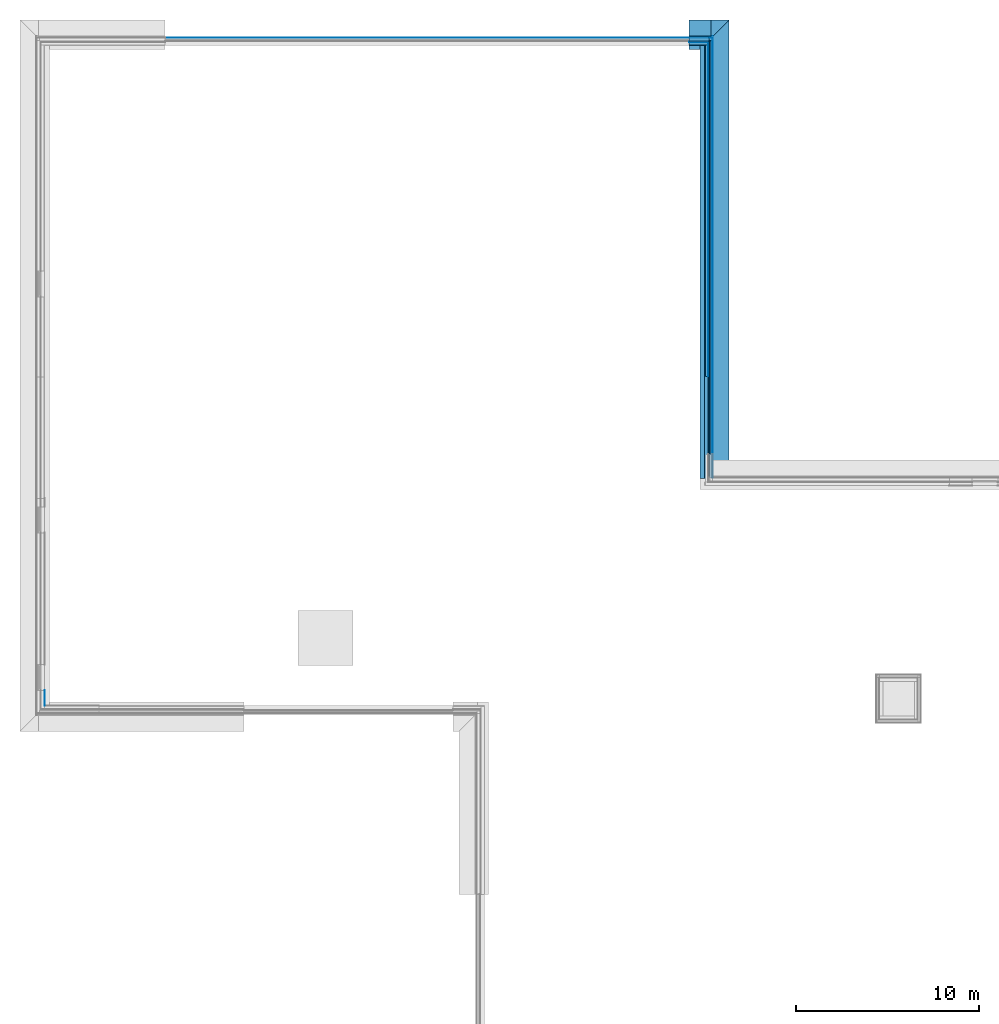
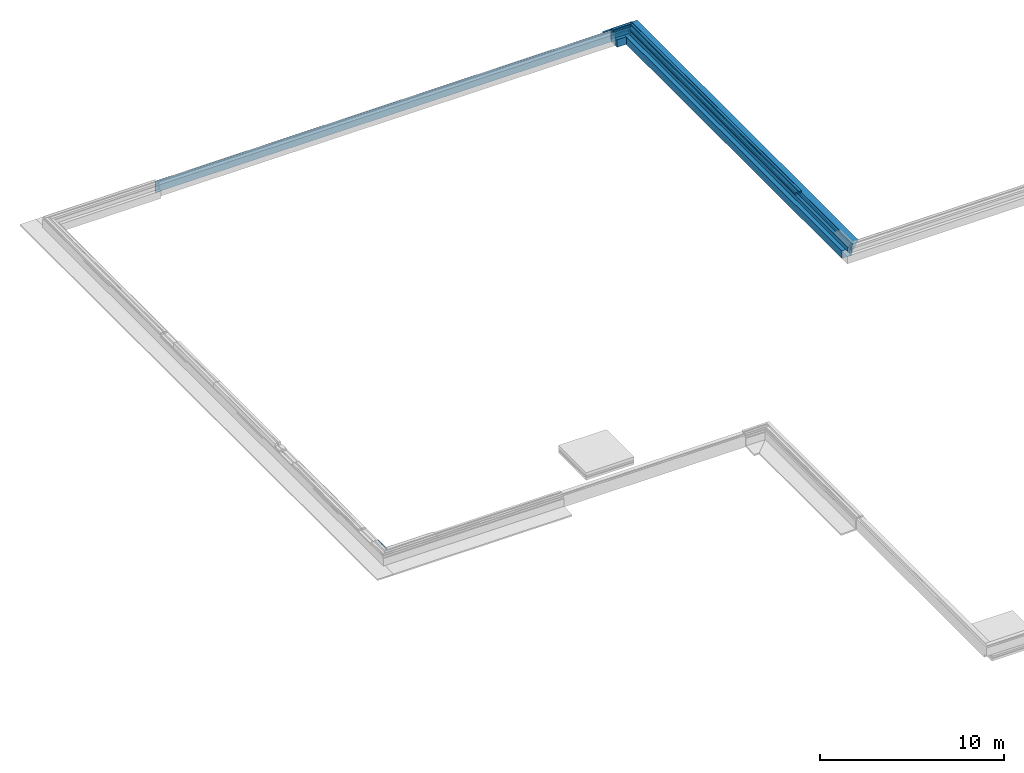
# One storey, part 13 of 17: 32 building element parts, 6 elements without a shape of their own.
"""IFC2X3 building model written with IfcOpenShell, lengths in millimetres."""

from ifc_helpers import new_model, entity, si_unit, converted_unit, derived_unit, money_unit, direction, frame, origin_with_axes, place, context, subcontext, project, spatial, faceted_brep, material, type_object, element, aggregate, save


model = new_model("IFC2X3")

# Units and contexts
model_context = context("Model", 3, precision=0.01, world=origin_with_axes(), true_north=direction((0.0, 1.0)))
body_context = subcontext(model_context, "Body", "Model", "MODEL_VIEW")
ifc_project = project(units=[si_unit("LENGTHUNIT", "METRE", prefix="MILLI"), si_unit("AREAUNIT", "SQUARE_METRE"), si_unit("VOLUMEUNIT", "CUBIC_METRE"), converted_unit("PLANEANGLEUNIT", "DEGREE", entity("IfcPlaneAngleMeasure", 0.0174532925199), si_unit("PLANEANGLEUNIT", "RADIAN"), dimensions=[0, 0, 0, 0, 0, 0, 0]), money_unit("EUR"), converted_unit("TIMEUNIT", "Year", entity("IfcTimeMeasure", 31556926.0), si_unit("TIMEUNIT", "SECOND"), dimensions=[0, 0, 1, 0, 0, 0, 0]), si_unit("MASSUNIT", "GRAM", prefix="KILO"), si_unit("THERMODYNAMICTEMPERATUREUNIT", "DEGREE_CELSIUS"), si_unit("LUMINOUSINTENSITYUNIT", "LUMEN"), si_unit("ENERGYUNIT", "JOULE", prefix="MEGA"), derived_unit("THERMALCONDUCTANCEUNIT", [(si_unit("POWERUNIT", "WATT"), 1), (si_unit("LENGTHUNIT", "METRE"), -1), (si_unit("THERMODYNAMICTEMPERATUREUNIT", "KELVIN"), -1)]), derived_unit("SPECIFICHEATCAPACITYUNIT", [(si_unit("ENERGYUNIT", "JOULE"), 1), (si_unit("MASSUNIT", "GRAM", prefix="KILO"), -1), (si_unit("THERMODYNAMICTEMPERATUREUNIT", "KELVIN"), -1)]), derived_unit("MASSDENSITYUNIT", [(si_unit("MASSUNIT", "GRAM", prefix="KILO"), 1), (si_unit("VOLUMEUNIT", "CUBIC_METRE"), -1)])], contexts=[model_context])

# Site, building, storey
site_placement = place(None, origin_with_axes())
site = spatial("IfcSite", under=ifc_project, at=site_placement, Name="Kolde pst 67a", CompositionType="ELEMENT")
building_placement = place(site_placement, origin_with_axes())
building = spatial("IfcBuilding", under=site, at=building_placement, Name="Riigigümnaasium", CompositionType="ELEMENT")
storey_placement = place(building_placement, frame((0.0, 0.0, -1500.0), z_axis=(0.0, 0.0, 1.0), x_axis=(1.0, 0.0, 0.0)))
storey = spatial("IfcBuildingStorey", under=building, at=storey_placement, Name="Vundament", CompositionType="ELEMENT", Elevation=-1500.0)

# Wall, building element parts
wall_type_1 = type_object("IfcWallType", Name="Lintvundament C plokk 1602 x 765", PredefinedType="NOTDEFINED")
wall_1_placement = place(storey_placement, frame((36439.99923, 60440.0001843, 1479.99999851), z_axis=(0.0, 0.0, 1.0), x_axis=(0.0, 1.0, 0.0)))
wall_1 = element("IfcWall", 1, at=wall_1_placement, inside=storey, type_object=wall_type_1, Name="Vundament")
ifc_material_1 = material(Name="_KANDETARIND - monoliitne raudbetoon vastavalt EK osale")
building_element_part_1_placement = place(wall_1_placement, origin_with_axes())
building_element_part_1 = element("IfcBuildingElementPart", 2, at=building_element_part_1_placement, material=ifc_material_1, Name="_KANDETARIND - monoliitne raudbetoon vastavalt EK osale", context=body_context, shape_type="Brep", body=[
    faceted_brep([(6484.99154481, 200.0, 2.38226693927e-06), (6484.99154481, 0.0, 2.38226693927e-06), (23999.9997743, 0.0, 8.81641959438e-06), (23999.9997743, 200.0, 8.81641959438e-06), (6484.99154481, 0.0, -1.99999850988), (6484.99154481, 200.0, -1.99999850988), (1477.8830646, 0.0, -1.99999850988), (1477.8830646, 0.0, 5.42901557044e-07), (0.0, 0.0, 0.0), (0.0, 0.0, -250.0), (200.057444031, 0.0, -250.0), (23999.9997743, 0.0, -250.000008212), (23999.9997743, 200.0, -250.000008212), (200.057444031, 200.0, -250.0), (0.0, 200.0, -250.0), (0.0, 200.0, 0.0), (1477.8830646, 200.0, 5.42901557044e-07), (1477.8830646, 200.0, -1.99999850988), (24200.0572118, 200.0, -250.000008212), (200.057444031, -140.057444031, -250.0), (24200.0572118, -140.057444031, -250.000008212), (24200.0572118, 459.942555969, -250.000008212), (200.057444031, 459.942555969, -250.0), (200.057444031, 459.942555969, -750.0), (200.057444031, -140.057444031, -750.0), (24200.0572118, -140.057444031, -750.000008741), (24200.0572118, 459.942555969, -750.000008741)], [[[0, 1, 2, 3]], [[4, 1, 0, 5]], [[6, 7, 8, 9, 10, 11, 2, 1, 4]], [[12, 3, 2, 11]], [[5, 0, 3, 12, 13, 14, 15, 16, 17]], [[6, 4, 5, 17]], [[16, 7, 6, 17]], [[7, 16, 15, 8]], [[9, 8, 15, 14]], [[10, 9, 14, 13]], [[18, 12, 11, 10, 19, 20]], [[13, 12, 18, 21, 22]], [[23, 24, 19, 10, 13, 22]], [[25, 20, 19, 24]], [[25, 26, 21, 18, 20]], [[22, 21, 26, 23]], [[23, 26, 25, 24]]]),
])
ifc_material_2 = material(Name="_SOOJUSTUS - ekstrudeeritud polüstüreenist plaadid XPS 250, survetugevus min 250kPa, soojuserijuhtivus λD<0,036 W/(mK), veeimavus alla 0,2%, näiteks XPS 250 foam SL või samaväärne")
building_element_part_2_placement = place(wall_1_placement, origin_with_axes())
building_element_part_2 = element("IfcBuildingElementPart", 3, at=building_element_part_2_placement, material=ifc_material_2, Name="_SOOJUSTUS - ekstrudeeritud polüstüreenist plaadid XPS 250, survetugevus min 250kPa, soojuserijuhtivus λD<0,036 W/(mK), veeimavus alla 0,2%, näiteks XPS 250 foam SL või samaväärne", context=body_context, shape_type="Brep", body=[
    faceted_brep([(73.0000017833, -3.00000241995, -146.99999851), (73.0000017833, -3.00000241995, -3.76120343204e-06), (24072.9997756, -3.00000241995, -2.23078100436e-06), (24072.9997756, -3.00000241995, -146.99999851), (73.0000017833, -73.00000242, -146.99999851), (73.0000017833, -73.00000242, -3.76120343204e-06), (24072.9997756, -73.00000242, -2.23078100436e-06), (24072.9997756, -73.00000242, -146.99999851)], [[[0, 1, 2, 3]], [[1, 0, 4, 5]], [[2, 1, 5, 6]], [[3, 2, 6, 7]], [[0, 3, 7, 4]], [[5, 4, 7, 6]]]),
])
ifc_material_3 = material(Name="_SOOJUSTUS - vahtpolüstüreenplaadid EPS 120 Perimeeter, survetugevus min 120kPa, veeimavus <2%, soojuserijuhtivus λD<0,036 W/(mK)")
building_element_part_3_placement = place(wall_1_placement, origin_with_axes())
building_element_part_3 = element("IfcBuildingElementPart", 4, at=building_element_part_3_placement, material=ifc_material_3, Name="_SOOJUSTUS - vahtpolüstüreenplaadid EPS 120 Perimeeter, survetugevus min 120kPa, veeimavus <2%, soojuserijuhtivus λD<0,036 W/(mK)", context=body_context, shape_type="Brep", body=[
    faceted_brep([(24303.0572148, -243.057440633, -247.000001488), (24303.0572148, -243.057440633, -146.999992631), (303.057446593, -243.057440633, -146.99999851), (303.057446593, -243.057440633, -247.000001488), (24303.0572148, -3.00000241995, -146.999992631), (24303.0572148, -3.00000241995, -247.000001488), (303.057446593, -3.00000241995, -146.99999851), (303.057446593, -3.00000241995, -247.000001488)], [[[0, 1, 2, 3]], [[4, 1, 0, 5]], [[1, 4, 6, 2]], [[7, 3, 2, 6]], [[5, 0, 3, 7]], [[4, 5, 7, 6]]]),
])
ifc_material_4 = material(Name="_HÜDROISOLATSIOON - Bituumenvõõp COMBIFLEX-EL vastavalt TL2 nõuetele")
building_element_part_4_placement = place(wall_1_placement, origin_with_axes())
building_element_part_4 = element("IfcBuildingElementPart", 5, at=building_element_part_4_placement, material=ifc_material_4, Name="_HÜDROISOLATSIOON - Bituumenvõõp COMBIFLEX-EL vastavalt TL2 nõuetele", context=body_context, shape_type="Brep", body=[
    faceted_brep([(24002.9997767, -3.00000118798, -247.000001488), (24002.9997767, -3.00000118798, -3.7612034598e-06), (2.99999783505, -3.00000118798, -2.35946218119e-06), (2.99999653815, -3.00000118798, -246.999998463), (203.057435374, -3.00000118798, -246.999999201), (24002.9997767, 0.0, -247.000001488), (24002.9997767, 0.0, -3.7612034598e-06), (2.99999783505, 0.0, -2.35946218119e-06), (2.99999653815, 0.0, -246.999998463), (203.057435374, 0.0, -246.999999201), (24203.0572183, 0.0, -247.000001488), (203.057435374, -143.057433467, -246.999999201), (24203.0572183, -143.057433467, -246.99999851), (24203.0572183, 0.0, -250.00000709), (203.057435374, 0.0, -250.000000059), (203.057435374, -140.057449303, -250.000000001), (203.057435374, -140.057449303, -729.999997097), (203.057435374, -143.057433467, -729.999997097), (24203.0572183, -143.057433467, -729.999997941), (24203.0572087, -143.057433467, -750.000015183), (24203.0572087, -140.057449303, -750.000015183), (24203.0572183, -140.057449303, -250.00000709), (203.057435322, -140.057449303, -750.000008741), (203.057435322, -143.057433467, -750.000008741)], [[[0, 1, 2, 3, 4]], [[5, 6, 1, 0]], [[2, 1, 6, 7]], [[2, 7, 8, 3]], [[8, 9, 4, 3]], [[10, 5, 0, 4, 11, 12]], [[7, 6, 5, 10, 13, 14, 9, 8]], [[9, 14, 15, 16, 17, 11, 4]], [[18, 12, 11, 17]], [[18, 19, 20, 21, 13, 10, 12]], [[14, 13, 21, 15]], [[16, 15, 21, 20, 22]], [[16, 22, 23, 17]], [[23, 19, 18, 17]], [[22, 20, 19, 23]]]),
])
building_element_part_5_placement = place(wall_1_placement, origin_with_axes())
building_element_part_5 = element("IfcBuildingElementPart", 6, at=building_element_part_5_placement, material=ifc_material_3, Name="_SOOJUSTUS - vahtpolüstüreenplaadid EPS 120 Perimeeter, survetugevus min 120kPa, veeimavus <2%, soojuserijuhtivus λD<0,036 W/(mK)", context=body_context, shape_type="Brep", body=[
    faceted_brep([(223.000000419, -73.0000021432, -146.999998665), (223.000000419, -73.0000021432, -2.23078099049e-06), (24222.9997758, -73.0000021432, -1.37334278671e-06), (24222.9997758, -73.0000021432, -146.999998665), (223.000000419, -223.000003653, -146.999998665), (223.000000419, -223.000003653, -2.23078099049e-06), (24222.9997758, -223.000003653, -1.37334278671e-06), (24222.9997758, -223.000003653, -146.999998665)], [[[0, 1, 2, 3]], [[1, 0, 4, 5]], [[2, 1, 5, 6]], [[3, 2, 6, 7]], [[0, 3, 7, 4]], [[5, 4, 7, 6]]]),
])
ifc_material_5 = material(Name="_TUULETÕKE - sokli krohv, silikoonvaikkrohv Weber.pas 481 AquaBalance 1mm \"scratch\" viimistlus, toon helehall CL444 (S 3502-Y) * 35, SILS süsteem, või samaväärne")
building_element_part_6_placement = place(wall_1_placement, origin_with_axes())
building_element_part_6 = element("IfcBuildingElementPart", 7, at=building_element_part_6_placement, material=ifc_material_5, Name="_TUULETÕKE - sokli krohv, silikoonvaikkrohv Weber.pas 481 AquaBalance 1mm \"scratch\" viimistlus, toon helehall CL444 (S 3502-Y) * 35, SILS süsteem, või samaväärne", context=body_context, shape_type="Brep", body=[
    faceted_brep([(24232.9997768, -223.000003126, -146.999999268), (24232.9997768, -233.000000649, -146.999999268), (233.000001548, -233.000000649, -146.999999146), (233.000001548, -223.000003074, -146.999999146), (24232.999787, -223.000003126, 3.32716632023e-07), (24232.999787, -233.000000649, 3.32716632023e-07), (24232.999787, -232.999999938, -29.9999875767), (233.000002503, -232.999999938, -30.0000036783), (233.000002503, -223.000003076, -30.0000036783), (233.000001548, -223.000003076, -1.37334278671e-06), (233.000001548, -233.000000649, -1.37334278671e-06)], [[[0, 1, 2, 3]], [[0, 4, 5, 6, 1]], [[7, 2, 1, 6]], [[2, 7, 8, 3]], [[8, 9, 4, 0, 3]], [[5, 4, 9, 10]], [[10, 7, 6, 5]], [[9, 8, 7, 10]]]),
])
ifc_material_6 = material(Name="_HÜDROISOLATSIOON - tsemendil baseeruv ühekomponentne hüdroisolatsioon hüdroisoleerimiseks sokli krohvi pealt, ülevärvitud silikoonvaikvärviga sokli krohvi tooni, Weber.tec 824 ja Weber.ton 411 AquaBalance toon CL444 (S 3502-Y) * 35 või samaväärne")
building_element_part_7_placement = place(wall_1_placement, origin_with_axes())
building_element_part_7 = element("IfcBuildingElementPart", 8, at=building_element_part_7_placement, material=ifc_material_6, Name="_HÜDROISOLATSIOON - tsemendil baseeruv ühekomponentne hüdroisolatsioon hüdroisoleerimiseks sokli krohvi pealt, ülevärvitud silikoonvaikvärviga sokli krohvi tooni, Weber.tec 824 ja Weber.ton 411 AquaBalance toon CL444 (S 3502-Y) * 35 või samaväärne", context=body_context, shape_type="Brep", body=[
    faceted_brep([(234.99999634, -232.999999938, -146.999993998), (234.99999634, -232.999999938, -30.0000012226), (24234.9997677, -232.999999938, -29.9999946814), (24234.9997677, -232.999999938, -146.999992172), (234.99999634, -235.000002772, -146.999993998), (234.99999634, -235.000002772, -29.9999967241), (24234.9997677, -235.000002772, -29.9999946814), (24234.9997677, -235.000002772, -146.999992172)], [[[0, 1, 2, 3]], [[1, 0, 4, 5]], [[2, 1, 5, 6]], [[6, 7, 3, 2]], [[0, 3, 7, 4]], [[5, 4, 7, 6]]]),
])
building_element_part_8_placement = place(wall_1_placement, origin_with_axes())
building_element_part_8 = element("IfcBuildingElementPart", 9, at=building_element_part_8_placement, material=ifc_material_3, Name="_SOOJUSTUS - vahtpolüstüreenplaadid EPS 120 Perimeeter, survetugevus min 120kPa, veeimavus <2%, soojuserijuhtivus λD<0,036 W/(mK)", context=body_context, shape_type="Brep", body=[
    faceted_brep([(24303.0572145, -243.057443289, -629.93015656), (24303.0572145, -243.057443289, -247.000001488), (303.057446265, -243.057443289, -246.99999851), (303.057446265, -243.057443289, -633.422240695), (24303.0573383, -243.057443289, -633.422240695), (24303.0572145, -143.057441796, -247.000001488), (24303.0572145, -143.057441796, -629.93015656), (303.057446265, -143.057441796, -246.99999851), (303.057446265, -143.057441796, -629.93015656)], [[[0, 1, 2, 3, 4]], [[5, 1, 0, 6]], [[1, 5, 7, 2]], [[2, 7, 8, 3]], [[6, 4, 3, 8]], [[6, 0, 4]], [[5, 6, 8, 7]]]),
])
ifc_material_7 = material(Name="_ALUSKATE - drenaaži- ja kaitsematt geotekstiiliga soojustuse kaitseks, Interplast Iso-Drain 8 Geo või samaväärne")
building_element_part_9_placement = place(wall_1_placement, origin_with_axes())
building_element_part_9 = element("IfcBuildingElementPart", 10, at=building_element_part_9_placement, material=ifc_material_7, Name="_ALUSKATE - drenaaži- ja kaitsematt geotekstiiliga soojustuse kaitseks, Interplast Iso-Drain 8 Geo või samaväärne", context=body_context, shape_type="Brep", body=[
    faceted_brep([(313.057436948, -235.000000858, -146.999992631), (313.057437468, -235.000000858, -137.030569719), (245.000004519, -235.000000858, -137.030569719), (245.000004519, -235.000000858, -29.9999946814), (24244.9997687, -235.000000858, -29.9999875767), (24244.9997687, -235.000000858, -137.03058496), (24313.0572264, -235.000000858, -137.03058496), (24313.0572264, -235.000000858, -146.999992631), (313.057436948, -243.057438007, -146.999998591), (313.057436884, -243.057526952, -633.422240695), (313.057397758, -253.057449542, -633.771445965), (313.057437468, -253.057449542, -137.030569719), (245.000004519, -253.057449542, -137.030569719), (245.000004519, -253.057449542, -136.999995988), (245.000004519, -245.000012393, -136.999995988), (245.000004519, -245.000012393, -29.9999946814), (24244.9997687, -245.000012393, -29.9999875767), (24244.9997687, -245.000012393, -136.999995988), (24244.9997687, -253.057449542, -136.999995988), (24244.9997687, -253.057449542, -137.03058496), (24313.0572264, -253.057449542, -137.03058496), (24313.0572264, -253.057449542, -633.771442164), (24313.0572264, -243.057438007, -633.422236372), (24313.0572264, -243.057438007, -146.999992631)], [[[0, 1, 2, 3, 4, 5, 6, 7]], [[1, 0, 8, 9, 10, 11]], [[2, 1, 11, 12]], [[3, 2, 12, 13, 14, 15]], [[4, 3, 15, 16]], [[5, 4, 16, 17, 18, 19]], [[6, 5, 19, 20]], [[7, 6, 20, 21, 22, 23]], [[0, 7, 23, 8]], [[8, 23, 22, 9]], [[9, 22, 21, 10]], [[11, 10, 21, 20, 19, 18, 13, 12]], [[14, 13, 18, 17]], [[15, 14, 17, 16]]]),
])
building_element_part_10_placement = place(wall_1_placement, origin_with_axes())
building_element_part_10 = element("IfcBuildingElementPart", 11, at=building_element_part_10_placement, material=ifc_material_3, Name="_SOOJUSTUS - vahtpolüstüreenplaadid EPS 120 Perimeeter, survetugevus min 120kPa, veeimavus <2%, soojuserijuhtivus λD<0,036 W/(mK)", context=body_context, shape_type="Brep", body=[
    faceted_brep([(24313.0572112, -143.057441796, -633.771447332), (24203.0572183, -143.057441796, -629.930162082), (24313.0572112, -253.057449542, -633.771447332), (25202.4656514, -1142.46587935, -664.830280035), (25202.4656514, -143.057441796, -664.830280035), (25200.1898708, -143.057441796, -729.999997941), (1200.19010466, -143.057441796, -729.999995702), (1202.46588158, -143.057441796, -664.830269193), (313.057436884, -143.057441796, -633.771447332), (203.057444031, -143.057441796, -629.93015656), (313.057436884, -253.057449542, -633.771447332), (1202.46588158, -1142.46587935, -664.830269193), (25198.9756955, -1138.97592914, -764.769370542), (1198.97593138, -1138.97592914, -764.769370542)], [[[0, 1, 2, 3, 4]], [[1, 0, 4, 5, 6, 7, 8, 9]], [[1, 9, 10, 2]], [[2, 10, 11, 3]], [[12, 5, 4, 3]], [[6, 5, 12, 13]], [[13, 11, 7, 6]], [[7, 11, 10, 8]], [[9, 8, 10]], [[3, 11, 13, 12]]]),
])
aggregate(wall_1, [building_element_part_1, building_element_part_2, building_element_part_3, building_element_part_4, building_element_part_5, building_element_part_6, building_element_part_7, building_element_part_8, building_element_part_9, building_element_part_10])

wall_type_2 = type_object("IfcWallType", Name="VS-CLT-16/3_sokkel võimla 393", PredefinedType="NOTDEFINED")
wall_2_placement = place(storey_placement, frame((36439.99923, 84439.9999608, 1480.0), z_axis=(0.0, 0.0, 1.0), x_axis=(-1.0, 0.0, 0.0)))
wall_2 = element("IfcWall", 12, at=wall_2_placement, inside=storey, type_object=wall_type_2, Name="Sokkel")
ifc_material_8 = material(Name="_KANDETARIND - CLT ristkihtliimpuit vastavalt EK osale, CLT paigaldusvuugid teibitakse ROTHOBLAAS teibiga")
building_element_part_11_placement = place(wall_2_placement, origin_with_axes())
building_element_part_11 = element("IfcBuildingElementPart", 13, at=building_element_part_11_placement, material=ifc_material_8, Name="_KANDETARIND - CLT ristkihtliimpuit vastavalt EK osale, CLT paigaldusvuugid teibitakse ROTHOBLAAS teibiga", context=body_context, shape_type="Brep", body=[
    faceted_brep([(1038.42575115, 160.0, 0.0), (1038.42575115, 0.0, 0.0), (0.0, 0.0, 0.0), (0.0, 160.0, 0.0), (1038.42575115, 160.0, 120.0), (1038.42575115, 0.0, 120.0), (0.0, 0.0, 120.0), (0.0, 160.0, 120.0)], [[[0, 1, 2, 3]], [[0, 4, 5, 1]], [[1, 5, 6, 2]], [[3, 2, 6, 7]], [[4, 0, 3, 7]], [[5, 4, 7, 6]]]),
])
ifc_material_9 = material(Name="_HÜDROISOLATSIOON - 3x SBS rullmaterjal vastavalt TL2 nõuetele, nakke tugevduseks betoonpind eelnevalt katta hüdroisolatsiooni bituumenvõõbaga")
building_element_part_12_placement = place(wall_2_placement, origin_with_axes())
building_element_part_12 = element("IfcBuildingElementPart", 14, at=building_element_part_12_placement, material=ifc_material_9, Name="_HÜDROISOLATSIOON - 3x SBS rullmaterjal vastavalt TL2 nõuetele, nakke tugevduseks betoonpind eelnevalt katta hüdroisolatsiooni bituumenvõõbaga", context=body_context, shape_type="Brep", body=[
    faceted_brep([(1038.42575115, 0.0, 0.0), (1038.42575115, -3.0, 0.0), (-3.0, -3.0, 0.0), (-3.0, 0.0, 0.0), (1038.42575115, 0.0, 120.0), (1038.42575115, -3.0, 120.0), (-3.0, -3.0, 120.0), (-3.0, 0.0, 120.0)], [[[0, 1, 2, 3]], [[0, 4, 5, 1]], [[1, 5, 6, 2]], [[3, 2, 6, 7]], [[4, 0, 3, 7]], [[5, 4, 7, 6]]]),
])
ifc_material_10 = material(Name="_SOOJUSTUS - ekstrudeeritud polüstüreenist plaadid XPS 250, soojuserijuhtivus lambdaD=0,035 W/mK, veeimavus alla 2%, näiteks Styrofoam 250 SL-A-N  või samaväärne, plaatide vuugid omavahel nihutada")
building_element_part_13_placement = place(wall_2_placement, origin_with_axes())
building_element_part_13 = element("IfcBuildingElementPart", 15, at=building_element_part_13_placement, material=ifc_material_10, Name="_SOOJUSTUS - ekstrudeeritud polüstüreenist plaadid XPS 250, soojuserijuhtivus lambdaD=0,035 W/mK, veeimavus alla 2%, näiteks Styrofoam 250 SL-A-N  või samaväärne, plaatide vuugid omavahel nihutada", context=body_context, shape_type="Brep", body=[
    faceted_brep([(1038.42575115, -3.0, 0.0), (1038.42575115, -73.0, 0.0), (-73.0, -73.0, 0.0), (-73.0, -3.0, 0.0), (1038.42575115, -3.0, 120.0), (1038.42575115, -73.0, 120.0), (-73.0, -73.0, 120.0), (-73.0, -3.0, 120.0)], [[[0, 1, 2, 3]], [[0, 4, 5, 1]], [[1, 5, 6, 2]], [[3, 2, 6, 7]], [[4, 0, 3, 7]], [[5, 4, 7, 6]]]),
])
building_element_part_14_placement = place(wall_2_placement, origin_with_axes())
building_element_part_14 = element("IfcBuildingElementPart", 16, at=building_element_part_14_placement, material=ifc_material_3, Name="_SOOJUSTUS - vahtpolüstüreenplaadid EPS 120 Perimeeter, survetugevus min 120kPa, veeimavus <2%, soojuserijuhtivus λD<0,036 W/(mK)", context=body_context, shape_type="Brep", body=[
    faceted_brep([(1038.42575115, -73.0, 0.0), (1038.42575115, -223.0, 0.0), (-223.0, -223.0, 0.0), (-223.0, -73.0, 0.0), (1038.42575115, -73.0, 120.0), (1038.42575115, -223.0, 120.0), (-223.0, -223.0, 120.0), (-223.0, -73.0, 120.0)], [[[0, 1, 2, 3]], [[0, 4, 5, 1]], [[1, 5, 6, 2]], [[3, 2, 6, 7]], [[4, 0, 3, 7]], [[5, 4, 7, 6]]]),
])
building_element_part_15_placement = place(wall_2_placement, origin_with_axes())
building_element_part_15 = element("IfcBuildingElementPart", 17, at=building_element_part_15_placement, material=ifc_material_5, Name="_TUULETÕKE - sokli krohv, silikoonvaikkrohv Weber.pas 481 AquaBalance 1mm \"scratch\" viimistlus, toon helehall CL444 (S 3502-Y) * 35, SILS süsteem, või samaväärne", context=body_context, shape_type="Brep", body=[
    faceted_brep([(1038.42575115, -223.0, 0.0), (1038.42575115, -233.0, 0.0), (-233.0, -233.0, 0.0), (-233.0, -223.0, 0.0), (1038.42575115, -223.0, 120.0), (1038.42575115, -233.0, 120.0), (-233.0, -233.0, 120.0), (-233.0, -223.0, 120.0)], [[[0, 1, 2, 3]], [[0, 4, 5, 1]], [[1, 5, 6, 2]], [[3, 2, 6, 7]], [[4, 0, 3, 7]], [[5, 4, 7, 6]]]),
])
aggregate(wall_2, [building_element_part_11, building_element_part_12, building_element_part_13, building_element_part_14, building_element_part_15])

wall_3_placement = place(storey_placement, frame((36439.99923, 66207.4801338, 1480.0), z_axis=(0.0, 0.0, 1.0), x_axis=(0.0, 1.0, 0.0)))
wall_3 = element("IfcWall", 18, at=wall_3_placement, inside=storey, type_object=wall_type_2, Name="Sokkel")
building_element_part_16_placement = place(wall_3_placement, origin_with_axes())
building_element_part_16 = element("IfcBuildingElementPart", 19, at=building_element_part_16_placement, material=ifc_material_8, Name="_KANDETARIND - CLT ristkihtliimpuit vastavalt EK osale, CLT paigaldusvuugid teibitakse ROTHOBLAAS teibiga", context=body_context, shape_type="Brep", body=[
    faceted_brep([(18072.519827, 0.0, 0.0), (0.0, 0.0, 0.0), (0.0, 160.0, 0.0), (18072.519827, 160.0, 0.0), (18072.519827, 0.0, 120.0), (0.0, 0.0, 120.0), (0.0, 160.0, 120.0), (18072.519827, 160.0, 120.0)], [[[0, 1, 2, 3]], [[4, 5, 1, 0]], [[2, 1, 5, 6]], [[3, 2, 6, 7]], [[3, 7, 4, 0]], [[7, 6, 5, 4]]]),
])
building_element_part_17_placement = place(wall_3_placement, origin_with_axes())
building_element_part_17 = element("IfcBuildingElementPart", 20, at=building_element_part_17_placement, material=ifc_material_9, Name="_HÜDROISOLATSIOON - 3x SBS rullmaterjal vastavalt TL2 nõuetele, nakke tugevduseks betoonpind eelnevalt katta hüdroisolatsiooni bituumenvõõbaga", context=body_context, shape_type="Brep", body=[
    faceted_brep([(18232.519827, -3.0, 0.0), (0.0, -3.0, 0.0), (0.0, 0.0, 0.0), (18232.519827, 0.0, 0.0), (18232.519827, -3.0, 120.0), (0.0, -3.0, 120.0), (0.0, 0.0, 120.0), (18232.519827, 0.0, 120.0)], [[[0, 1, 2, 3]], [[4, 5, 1, 0]], [[2, 1, 5, 6]], [[3, 2, 6, 7]], [[3, 7, 4, 0]], [[7, 6, 5, 4]]]),
])
building_element_part_18_placement = place(wall_3_placement, origin_with_axes())
building_element_part_18 = element("IfcBuildingElementPart", 21, at=building_element_part_18_placement, material=ifc_material_10, Name="_SOOJUSTUS - ekstrudeeritud polüstüreenist plaadid XPS 250, soojuserijuhtivus lambdaD=0,035 W/mK, veeimavus alla 2%, näiteks Styrofoam 250 SL-A-N  või samaväärne, plaatide vuugid omavahel nihutada", context=body_context, shape_type="Brep", body=[
    faceted_brep([(18235.519827, -73.0, 0.0), (0.0, -73.0, 0.0), (0.0, -3.0, 0.0), (18235.519827, -3.0, 0.0), (18235.519827, -73.0, 120.0), (0.0, -73.0, 120.0), (0.0, -3.0, 120.0), (18235.519827, -3.0, 120.0)], [[[0, 1, 2, 3]], [[4, 5, 1, 0]], [[2, 1, 5, 6]], [[3, 2, 6, 7]], [[3, 7, 4, 0]], [[7, 6, 5, 4]]]),
])
building_element_part_19_placement = place(wall_3_placement, origin_with_axes())
building_element_part_19 = element("IfcBuildingElementPart", 22, at=building_element_part_19_placement, material=ifc_material_3, Name="_SOOJUSTUS - vahtpolüstüreenplaadid EPS 120 Perimeeter, survetugevus min 120kPa, veeimavus <2%, soojuserijuhtivus λD<0,036 W/(mK)", context=body_context, shape_type="Brep", body=[
    faceted_brep([(18305.519827, -223.0, 0.0), (0.0, -223.0, 0.0), (0.0, -73.0, 0.0), (18305.519827, -73.0, 0.0), (18305.519827, -223.0, 120.0), (0.0, -223.0, 120.0), (0.0, -73.0, 120.0), (18305.519827, -73.0, 120.0)], [[[0, 1, 2, 3]], [[4, 5, 1, 0]], [[2, 1, 5, 6]], [[3, 2, 6, 7]], [[3, 7, 4, 0]], [[7, 6, 5, 4]]]),
])
building_element_part_20_placement = place(wall_3_placement, origin_with_axes())
building_element_part_20 = element("IfcBuildingElementPart", 23, at=building_element_part_20_placement, material=ifc_material_5, Name="_TUULETÕKE - sokli krohv, silikoonvaikkrohv Weber.pas 481 AquaBalance 1mm \"scratch\" viimistlus, toon helehall CL444 (S 3502-Y) * 35, SILS süsteem, või samaväärne", context=body_context, shape_type="Brep", body=[
    faceted_brep([(18455.519827, -233.0, 0.0), (0.0, -233.0, 0.0), (0.0, -223.0, 0.0), (18455.519827, -223.0, 0.0), (18455.519827, -233.0, 120.0), (0.0, -233.0, 120.0), (0.0, -223.0, 120.0), (18455.519827, -223.0, 120.0)], [[[0, 1, 2, 3]], [[4, 5, 1, 0]], [[2, 1, 5, 6]], [[3, 2, 6, 7]], [[3, 7, 4, 0]], [[7, 6, 5, 4]]]),
])
aggregate(wall_3, [building_element_part_16, building_element_part_17, building_element_part_18, building_element_part_19, building_element_part_20])

# Wall, building element part
wall_type_3 = type_object("IfcWallType", Name="VS-RB-20/2_sokkel  443", PredefinedType="NOTDEFINED")
wall_4_placement = place(storey_placement, frame((40.0568180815, 49081.2912596, 1480.0), z_axis=(0.0, 0.0, 1.0), x_axis=(-4.41557497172e-07, -1.0, 0.0)))
wall_4 = element("IfcWall", 24, at=wall_4_placement, inside=storey, type_object=wall_type_3, Name="Sokkel")
ifc_material_11 = material(Name="_VIIMISTLUSKIHT - viimistlus vastavalt SA osale")
building_element_part_21_placement = place(wall_4_placement, origin_with_axes())
building_element_part_21 = element("IfcBuildingElementPart", 25, at=building_element_part_21_placement, material=ifc_material_11, Name="_VIIMISTLUSKIHT - viimistlus vastavalt SA osale", context=body_context, shape_type="Brep", body=[
    faceted_brep([(841.310340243, 200.0, 0.0), (0.0, 200.0, 0.0), (0.0, 210.0, 0.0), (841.310335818, 210.0, 0.0), (841.310340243, 200.0, 120.0), (0.0, 200.0, 120.0), (0.0, 210.0, 120.0), (841.310335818, 210.0, 120.0)], [[[0, 1, 2, 3]], [[4, 5, 1, 0]], [[2, 1, 5, 6]], [[3, 2, 6, 7]], [[3, 7, 4, 0]], [[7, 6, 5, 4]]]),
])
aggregate(wall_4, [building_element_part_21])

wall_type_4 = type_object("IfcWallType", Name="VS-RB-25/3_lintvundament klaasfassaad 433", PredefinedType="NOTDEFINED")
wall_5_placement = place(storey_placement, frame((35400.0003162, 84672.9999608, 729.99999851), z_axis=(0.0, 0.0, 1.0), x_axis=(-1.0, 0.0, 0.0)))
wall_5 = element("IfcWall", 26, at=wall_5_placement, inside=storey, type_object=wall_type_4, Name="Vundament")
building_element_part_22_placement = place(wall_5_placement, origin_with_axes())
building_element_part_22 = element("IfcBuildingElementPart", 27, at=building_element_part_22_placement, material=ifc_material_5, Name="_TUULETÕKE - sokli krohv, silikoonvaikkrohv Weber.pas 481 AquaBalance 1mm \"scratch\" viimistlus, toon helehall CL444 (S 3502-Y) * 35, SILS süsteem, või samaväärne", context=body_context, shape_type="Brep", body=[
    faceted_brep([(28584.4631948, 10.0, 0.0), (28584.4631948, 0.0, 0.0), (0.0, 0.0, 0.0), (0.0, 10.0, 0.0), (28584.4631948, 10.0, 770.00000149), (28584.4631948, 0.0, 770.00000149), (0.0, 0.0, 770.00000149), (0.0, 10.0, 770.00000149)], [[[0, 1, 2, 3]], [[0, 4, 5, 1]], [[1, 5, 6, 2]], [[3, 2, 6, 7]], [[4, 0, 3, 7]], [[5, 4, 7, 6]]]),
])
aggregate(wall_5, [building_element_part_22])

# Wall, building element parts
wall_type_5 = type_object("IfcWallType", Name="Lintvundament 1602 x 765", PredefinedType="NOTDEFINED")
wall_6_placement = place(storey_placement, frame((36439.99923, 84439.9999586, 1479.99999851), z_axis=(0.0, 0.0, 1.0), x_axis=(-1.0, 0.0, 0.0)))
wall_6 = element("IfcWall", 28, at=wall_6_placement, inside=storey, type_object=wall_type_5, Name="Vundament")
building_element_part_23_placement = place(wall_6_placement, origin_with_axes())
building_element_part_23 = element("IfcBuildingElementPart", 29, at=building_element_part_23_placement, material=ifc_material_1, Name="_KANDETARIND - monoliitne raudbetoon vastavalt EK osale", context=body_context, shape_type="Brep", body=[
    faceted_brep([(200.0, 200.0, 0.0), (200.0, 0.0, 0.0), (1039.9989138, 0.0, 0.0), (1039.9989138, 200.0, 0.0), (200.0, 200.0, -250.0), (200.0, 0.0, -250.0), (459.942555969, 0.0, -250.0), (1039.9989138, 0.0, -250.0), (1039.9989138, 399.942555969, -250.0), (1039.9989138, 200.0, -250.0), (1039.9989138, -200.057444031, -250.0), (1039.9989138, -200.057444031, -750.0), (1039.9989138, 399.942555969, -750.0), (459.942555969, 200.0, -250.0), (459.942555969, -200.057444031, -250.0), (459.942555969, 399.942555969, -250.0), (459.942555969, -200.057444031, -750.0), (459.942555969, 399.942555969, -750.0)], [[[0, 1, 2, 3]], [[1, 0, 4, 5]], [[1, 5, 6, 7, 2]], [[8, 9, 3, 2, 7, 10, 11, 12]], [[0, 3, 9, 13, 4]], [[6, 5, 4, 13]], [[6, 14, 10, 7]], [[15, 13, 9, 8]], [[14, 16, 11, 10]], [[16, 17, 12, 11]], [[15, 8, 12, 17]], [[13, 15, 17, 16, 14, 6]]]),
])
building_element_part_24_placement = place(wall_6_placement, origin_with_axes())
building_element_part_24 = element("IfcBuildingElementPart", 30, at=building_element_part_24_placement, material=ifc_material_2, Name="_SOOJUSTUS - ekstrudeeritud polüstüreenist plaadid XPS 250, survetugevus min 250kPa, soojuserijuhtivus λD<0,036 W/(mK), veeimavus alla 0,2%, näiteks XPS 250 foam SL või samaväärne", context=body_context, shape_type="Brep", body=[
    faceted_brep([(-3.00000241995, -3.00000241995, 0.0), (-3.00000241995, -73.0000017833, 0.0), (1039.9989138, -73.0000017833, -3.76120340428e-06), (1039.9989138, -3.00000241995, -3.7612034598e-06), (-3.00000241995, -3.00000241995, -146.99999851), (-3.00000241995, -73.0000017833, -146.99999851), (1039.9989138, -73.0000017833, -146.999999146), (1039.9989138, -3.00000241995, -146.999999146)], [[[0, 1, 2, 3]], [[1, 0, 4, 5]], [[1, 5, 6, 2]], [[2, 6, 7, 3]], [[0, 3, 7, 4]], [[4, 7, 6, 5]]]),
])
building_element_part_25_placement = place(wall_6_placement, origin_with_axes())
building_element_part_25 = element("IfcBuildingElementPart", 31, at=building_element_part_25_placement, material=ifc_material_3, Name="_SOOJUSTUS - vahtpolüstüreenplaadid EPS 120 Perimeeter, survetugevus min 120kPa, veeimavus <2%, soojuserijuhtivus λD<0,036 W/(mK)", context=body_context, shape_type="Brep", body=[
    faceted_brep([(-73.0000021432, -73.0000013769, 1.49012682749e-06), (-73.0000021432, -223.000000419, 1.49012682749e-06), (1039.9989138, -223.000000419, -2.23078100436e-06), (1039.9989138, -73.0000013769, -2.23078100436e-06), (-73.0000021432, -73.0000013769, -146.999998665), (-73.0000021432, -223.000000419, -146.999998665), (1039.9989138, -223.000000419, -146.999999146), (1039.9989138, -73.0000013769, -146.999999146)], [[[0, 1, 2, 3]], [[1, 0, 4, 5]], [[1, 5, 6, 2]], [[6, 7, 3, 2]], [[0, 3, 7, 4]], [[7, 6, 5, 4]]]),
])
building_element_part_26_placement = place(wall_6_placement, origin_with_axes())
building_element_part_26 = element("IfcBuildingElementPart", 32, at=building_element_part_26_placement, material=ifc_material_3, Name="_SOOJUSTUS - vahtpolüstüreenplaadid EPS 120 Perimeeter, survetugevus min 120kPa, veeimavus <2%, soojuserijuhtivus λD<0,036 W/(mK)", context=body_context, shape_type="Brep", body=[
    faceted_brep([(-3.00000241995, -3.00000241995, -146.999997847), (-3.00000241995, -303.057446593, -146.999997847), (1039.9989138, -303.057446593, -146.99999851), (1039.9989138, -3.00000241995, -146.99999851), (-3.00000241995, -303.057446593, -247.000000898), (-3.00000241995, -3.00000241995, -247.000000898), (1039.9989138, -303.057446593, -247.000001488), (1039.9989138, -3.00000241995, -247.000001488)], [[[0, 1, 2, 3]], [[4, 1, 0, 5]], [[1, 4, 6, 2]], [[6, 7, 3, 2]], [[5, 0, 3, 7]], [[4, 5, 7, 6]]]),
])
building_element_part_27_placement = place(wall_6_placement, origin_with_axes())
building_element_part_27 = element("IfcBuildingElementPart", 33, at=building_element_part_27_placement, material=ifc_material_4, Name="_HÜDROISOLATSIOON - Bituumenvõõp COMBIFLEX-EL vastavalt TL2 nõuetele", context=body_context, shape_type="Brep", body=[
    faceted_brep([(0.0, 0.0, 6.88264223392e-07), (0.0, -2.99999783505, 6.88264223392e-07), (1039.9989138, -2.99999783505, -2.35946218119e-06), (1039.9989138, 0.0, 8.81641959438e-06), (0.0, 0.0, -250.000006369), (0.0, -200.057437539, -250.000006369), (0.0, -203.057435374, -250.000006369), (0.0, -203.057435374, -247.000002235), (0.0, -2.99999783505, -247.000002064), (1039.9989138, -2.99999783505, -246.999999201), (1039.9989138, -203.057435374, -750.000008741), (1039.9989138, -200.057437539, -750.000008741), (1039.9989138, -200.057437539, -250.000008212), (1039.9989138, 0.0, -250.000008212), (1039.9989138, -203.057435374, -246.999999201), (1039.9989138, -203.057435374, -729.999997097), (-140.057448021, -200.057437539, -250.000006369), (-140.057448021, -203.057435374, -250.000006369), (-140.057449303, -203.057435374, -729.999995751), (-140.057449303, -203.057435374, -750.000006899), (-140.057449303, -200.057437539, -750.000006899)], [[[0, 1, 2, 3]], [[1, 0, 4, 5, 6, 7, 8]], [[1, 8, 9, 2]], [[10, 11, 12, 13, 3, 2, 9, 14, 15]], [[0, 3, 13, 4]], [[12, 5, 4, 13]], [[16, 17, 6, 5]], [[6, 17, 18, 15, 14, 7]], [[9, 8, 7, 14]], [[10, 19, 20, 11]], [[12, 11, 20, 16, 5]], [[15, 18, 19, 10]], [[20, 19, 18, 17, 16]]]),
])
building_element_part_28_placement = place(wall_6_placement, origin_with_axes())
building_element_part_28 = element("IfcBuildingElementPart", 34, at=building_element_part_28_placement, material=ifc_material_5, Name="_TUULETÕKE - sokli krohv, silikoonvaikkrohv Weber.pas 481 AquaBalance 1mm \"scratch\" viimistlus, toon helehall CL444 (S 3502-Y) * 35, SILS süsteem, või samaväärne", context=body_context, shape_type="Brep", body=[
    faceted_brep([(-223.000003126, -223.000001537, 1.74315643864e-06), (-223.000003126, -233.000001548, 1.74315643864e-06), (1039.9989138, -233.000001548, -1.37334277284e-06), (1039.9989138, -223.000001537, -1.37334277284e-06), (-223.000003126, -233.000002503, -30.0000036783), (-223.000003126, -223.000001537, -146.999999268), (-223.000003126, -233.000001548, -146.999999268), (1039.9989138, -233.000002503, -30.0000036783), (1039.9989138, -233.000001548, -146.999999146), (1039.9989138, -223.000001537, -146.999999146)], [[[0, 1, 2, 3]], [[4, 1, 0, 5, 6]], [[1, 4, 7, 2]], [[8, 9, 3, 2, 7]], [[0, 3, 9, 5]], [[8, 6, 5, 9]], [[7, 4, 6, 8]]]),
])
building_element_part_29_placement = place(wall_6_placement, origin_with_axes())
building_element_part_29 = element("IfcBuildingElementPart", 35, at=building_element_part_29_placement, material=ifc_material_6, Name="_HÜDROISOLATSIOON - tsemendil baseeruv ühekomponentne hüdroisolatsioon hüdroisoleerimiseks sokli krohvi pealt, ülevärvitud silikoonvaikvärviga sokli krohvi tooni, Weber.tec 824 ja Weber.ton 411 AquaBalance toon CL444 (S 3502-Y) * 35 või samaväärne", context=body_context, shape_type="Brep", body=[
    faceted_brep([(-232.999999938, -233.000002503, -30.0000036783), (-232.999999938, -234.99999634, -30.0000036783), (1039.9989138, -234.99999634, -29.9999946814), (1039.9989138, -233.000002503, -30.0000036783), (-232.999999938, -234.99999634, -147.000002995), (-232.999999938, -233.000002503, -147.000002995), (1039.9989138, -234.99999634, -146.999993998), (1039.9989138, -233.000002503, -147.000002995)], [[[0, 1, 2, 3]], [[4, 1, 0, 5]], [[1, 4, 6, 2]], [[6, 7, 3, 2]], [[5, 0, 3, 7]], [[4, 5, 7, 6]]]),
])
building_element_part_30_placement = place(wall_6_placement, origin_with_axes())
building_element_part_30 = element("IfcBuildingElementPart", 36, at=building_element_part_30_placement, material=ifc_material_3, Name="_SOOJUSTUS - vahtpolüstüreenplaadid EPS 120 Perimeeter, survetugevus min 120kPa, veeimavus <2%, soojuserijuhtivus λD<0,036 W/(mK)", context=body_context, shape_type="Brep", body=[
    faceted_brep([(-143.057441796, -203.057444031, -247.000002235), (-143.057441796, -303.057446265, -247.000002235), (1039.9989138, -303.057446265, -246.99999851), (1039.9989138, -203.057444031, -246.99999851), (-143.057441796, -303.057446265, -629.930161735), (-143.057441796, -203.057444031, -629.930161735), (-243.057443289, -303.057446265, -633.422240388), (1039.9989138, -303.057446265, -633.422240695), (1039.9989138, -203.057444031, -629.930162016)], [[[0, 1, 2, 3]], [[4, 1, 0, 5]], [[1, 4, 6, 7, 2]], [[2, 7, 8, 3]], [[5, 0, 3, 8]], [[4, 5, 6]], [[8, 7, 6, 5]]]),
])
building_element_part_31_placement = place(wall_6_placement, origin_with_axes())
building_element_part_31 = element("IfcBuildingElementPart", 37, at=building_element_part_31_placement, material=ifc_material_7, Name="_ALUSKATE - drenaaži- ja kaitsematt geotekstiiliga soojustuse kaitseks, Interplast Iso-Drain 8 Geo või samaväärne", context=body_context, shape_type="Brep", body=[
    faceted_brep([(-235.000000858, -313.057436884, -137.030570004), (-235.000000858, -313.057436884, -146.999992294), (-243.057437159, -313.057436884, -146.999999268), (-243.057438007, -313.057436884, -629.93015656), (-243.057553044, -313.057436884, -633.422240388), (-253.057449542, -313.057436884, -633.771447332), (1039.9989138, -313.057436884, -633.771447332), (1039.9989138, -313.057436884, -137.030570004), (-235.000000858, -245.000004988, -137.030570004), (-235.000000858, -245.000004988, -29.9999946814), (-235.000000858, -234.999993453, -29.9999946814), (-235.000000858, -234.999993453, -146.999992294), (-235.000000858, -303.057440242, -146.999992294), (-243.057437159, -303.057440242, -146.999999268), (-243.057438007, -303.057440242, -629.93015656), (-243.057553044, -303.057440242, -633.422240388), (1039.9989138, -303.057440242, -633.422236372), (1039.9989138, -234.999993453, -29.9999946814), (1039.9989138, -245.000004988, -29.9999946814), (1039.9989138, -245.000004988, -137.030570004), (1039.9989138, -303.057440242, -146.999992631), (1039.9989138, -234.999993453, -146.999992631)], [[[0, 1, 2, 3, 4, 5, 6, 7]], [[1, 0, 8, 9, 10, 11, 12]], [[13, 2, 1, 12]], [[2, 13, 14, 3]], [[15, 4, 3, 14]], [[4, 15, 5]], [[5, 15, 16, 6]], [[17, 18, 19, 7, 6, 16, 20, 21]], [[8, 0, 7, 19]], [[9, 8, 19, 18]], [[10, 9, 18, 17]], [[11, 10, 17, 21]], [[12, 11, 21, 20]], [[13, 12, 20, 16, 15, 14]]]),
])
building_element_part_32_placement = place(wall_6_placement, origin_with_axes())
building_element_part_32 = element("IfcBuildingElementPart", 38, at=building_element_part_32_placement, material=ifc_material_3, Name="_SOOJUSTUS - vahtpolüstüreenplaadid EPS 120 Perimeeter, survetugevus min 120kPa, veeimavus <2%, soojuserijuhtivus λD<0,036 W/(mK)", context=body_context, shape_type="Brep", body=[
    faceted_brep([(-143.057441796, -203.057444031, -629.93015656), (-143.057441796, -313.057436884, -633.771447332), (1039.9989138, -313.057436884, -633.771447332), (1039.9989138, -203.057444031, -629.93015656), (-143.057441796, -203.057444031, -729.999997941), (-143.057441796, -1200.19010512, -729.999997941), (-143.057441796, -1202.46588158, -664.830275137), (1039.9989138, -1202.46588158, -664.830269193), (1039.9989138, -203.057444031, -729.999997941), (1039.9989138, -1198.97593138, -764.769370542), (-1138.97592914, -1198.97593138, -764.769370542)], [[[0, 1, 2, 3]], [[1, 0, 4, 5, 6]], [[2, 1, 6, 7]], [[8, 3, 2, 7, 9]], [[0, 3, 8, 4]], [[4, 10, 5]], [[6, 5, 10, 9, 7]], [[9, 10, 4, 8]]]),
])
aggregate(wall_6, [building_element_part_23, building_element_part_24, building_element_part_25, building_element_part_26, building_element_part_27, building_element_part_28, building_element_part_29, building_element_part_30, building_element_part_31, building_element_part_32])

save(model, "model.ifc")
